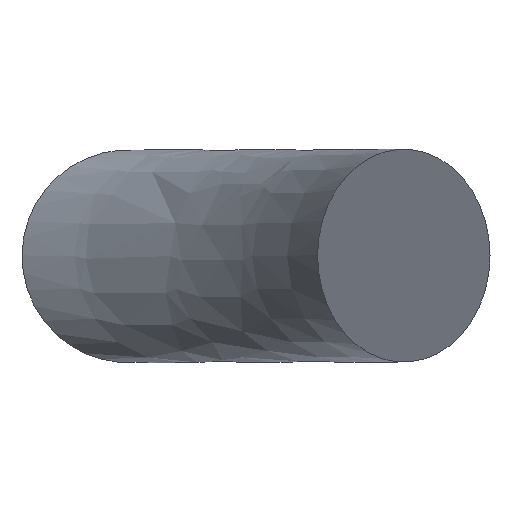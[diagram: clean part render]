
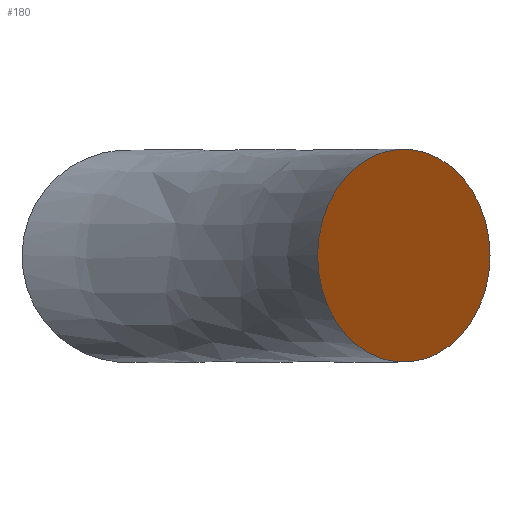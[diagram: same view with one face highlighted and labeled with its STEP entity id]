
A CAD part, top view. The second image highlights one B-rep face of the part: STEP entity #180.
In plain terms, the highlighted planar face has unit normal (-0.587, 0, 0.81).
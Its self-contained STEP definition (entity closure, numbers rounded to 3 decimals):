
#24 = VERTEX_POINT('',#25);
#25 = CARTESIAN_POINT('',(20.,0.,
    17.181));
#37 = ( BOUNDED_SURFACE() B_SPLINE_SURFACE(6,7,(
    (#38,#39,#40,#41,#42,#43,#44,#45)
    ,(#46,#47,#48,#49,#50,#51,#52,#53)
    ,(#54,#55,#56,#57,#58,#59,#60,#61)
    ,(#62,#63,#64,#65,#66,#67,#68,#69)
    ,(#70,#71,#72,#73,#74,#75,#76,#77)
    ,(#78,#79,#80,#81,#82,#83,#84,#85)
    ,(#86,#87,#88,#89,#90,#91,#92,#93
)),.UNSPECIFIED.,.T.,.F.,.F.) B_SPLINE_SURFACE_WITH_KNOTS((1,6,6,1),(8,8
    ),(-6.283,0.,6.283,12.566),(0.,
3.65),.UNSPECIFIED.) GEOMETRIC_REPRESENTATION_ITEM() 
RATIONAL_B_SPLINE_SURFACE((
    (1.669,1.669,1.669,1.669
      ,1.669,1.669,1.669,1.669)
    ,(1.037,1.037,1.037,1.037
      ,1.037,1.037,1.037,1.037)
    ,(1.038,1.038,1.038,1.038
      ,1.038,1.038,1.038,1.038)
    ,(0.854,0.854,0.854,0.854
      ,0.854,0.854,0.854,0.854)
    ,(1.038,1.038,1.038,1.038
      ,1.038,1.038,1.038,1.038)
    ,(1.037,1.037,1.037,1.037
      ,1.037,1.037,1.037,1.037)
    ,(1.669,1.669,1.669,1.669
      ,1.669,1.669,1.669,1.669
))) REPRESENTATION_ITEM('') SURFACE() );
#38 = CARTESIAN_POINT('',(-1.804,0.,
    -17.181));
#39 = CARTESIAN_POINT('',(2.808,0.,
    -13.392));
#40 = CARTESIAN_POINT('',(6.975,0.,
    -9.183));
#41 = CARTESIAN_POINT('',(10.66,0.,
    -4.563));
#42 = CARTESIAN_POINT('',(13.814,0.,
    0.44));
#43 = CARTESIAN_POINT('',(16.412,0.,
    5.761));
#44 = CARTESIAN_POINT('',(18.467,0.,
    11.351));
#45 = CARTESIAN_POINT('',(20.,0.,
    17.181));
#46 = CARTESIAN_POINT('',(-1.804,15.117,-17.181
    ));
#47 = CARTESIAN_POINT('',(2.808,15.117,-13.392
    ));
#48 = CARTESIAN_POINT('',(6.975,15.117,-9.183
    ));
#49 = CARTESIAN_POINT('',(10.66,15.117,
    -4.563));
#50 = CARTESIAN_POINT('',(13.814,15.117,0.44
    ));
#51 = CARTESIAN_POINT('',(16.412,15.117,5.761
    ));
#52 = CARTESIAN_POINT('',(18.467,15.117,
    11.351));
#53 = CARTESIAN_POINT('',(20.,15.117,
    17.181));
#54 = CARTESIAN_POINT('',(-20.496,17.288,
    -17.181));
#55 = CARTESIAN_POINT('',(-15.885,17.288,
    -14.992));
#56 = CARTESIAN_POINT('',(-11.557,17.288,
    -12.477));
#57 = CARTESIAN_POINT('',(-7.521,17.288,
    -9.594));
#58 = CARTESIAN_POINT('',(-3.802,17.288,
    -6.294));
#59 = CARTESIAN_POINT('',(-0.468,17.288,
    -2.55));
#60 = CARTESIAN_POINT('',(2.43,17.288,1.626)
  );
#61 = CARTESIAN_POINT('',(4.862,17.288,6.215)
  );
#62 = CARTESIAN_POINT('',(-35.914,0.,
    -17.181));
#63 = CARTESIAN_POINT('',(-31.302,0.,
    -16.312));
#64 = CARTESIAN_POINT('',(-26.843,0.,
    -15.193));
#65 = CARTESIAN_POINT('',(-22.516,0.,
    -13.743));
#66 = CARTESIAN_POINT('',(-18.331,0.,
    -11.849));
#67 = CARTESIAN_POINT('',(-14.391,0.,
    -9.405));
#68 = CARTESIAN_POINT('',(-10.798,0.,
    -6.395));
#69 = CARTESIAN_POINT('',(-7.623,0.,
    -2.83));
#70 = CARTESIAN_POINT('',(-20.496,-17.288,
    -17.181));
#71 = CARTESIAN_POINT('',(-15.885,-17.288,
    -14.992));
#72 = CARTESIAN_POINT('',(-11.557,-17.288,
    -12.477));
#73 = CARTESIAN_POINT('',(-7.521,-17.288,
    -9.594));
#74 = CARTESIAN_POINT('',(-3.802,-17.288,
    -6.294));
#75 = CARTESIAN_POINT('',(-0.468,-17.288,
    -2.55));
#76 = CARTESIAN_POINT('',(2.43,-17.288,1.626)
  );
#77 = CARTESIAN_POINT('',(4.862,-17.288,6.215)
  );
#78 = CARTESIAN_POINT('',(-1.804,-15.117,-17.181
    ));
#79 = CARTESIAN_POINT('',(2.808,-15.117,-13.392
    ));
#80 = CARTESIAN_POINT('',(6.975,-15.117,-9.183
    ));
#81 = CARTESIAN_POINT('',(10.66,-15.117,
    -4.563));
#82 = CARTESIAN_POINT('',(13.814,-15.117,0.44
    ));
#83 = CARTESIAN_POINT('',(16.412,-15.117,5.761
    ));
#84 = CARTESIAN_POINT('',(18.467,-15.117,
    11.351));
#85 = CARTESIAN_POINT('',(20.,-15.117,
    17.181));
#86 = CARTESIAN_POINT('',(-1.804,0.,
    -17.181));
#87 = CARTESIAN_POINT('',(2.808,0.,
    -13.392));
#88 = CARTESIAN_POINT('',(6.975,0.,
    -9.183));
#89 = CARTESIAN_POINT('',(10.66,0.,
    -4.563));
#90 = CARTESIAN_POINT('',(13.814,0.,
    0.44));
#91 = CARTESIAN_POINT('',(16.412,0.,
    5.761));
#92 = CARTESIAN_POINT('',(18.467,0.,
    11.351));
#93 = CARTESIAN_POINT('',(20.,0.,
    17.181));
#108 = EDGE_CURVE('',#24,#24,#109,.T.);
#109 = SURFACE_CURVE('',#110,(#118,#125),.PCURVE_S1.);
#110 = ( BOUNDED_CURVE() B_SPLINE_CURVE(6,(#111,#112,#113,#114,#115,#116
,#117),.UNSPECIFIED.,.T.,.F.) B_SPLINE_CURVE_WITH_KNOTS((1,6,6,1),(
    -6.283,0.,6.283,12.566),.UNSPECIFIED.) 
CURVE() GEOMETRIC_REPRESENTATION_ITEM() RATIONAL_B_SPLINE_CURVE((
    1.669,1.037,1.038,0.854,
1.038,1.037,1.669)) REPRESENTATION_ITEM('') );
#111 = CARTESIAN_POINT('',(20.,0.,
    17.181));
#112 = CARTESIAN_POINT('',(20.,15.117,
    17.181));
#113 = CARTESIAN_POINT('',(4.862,17.288,6.215)
  );
#114 = CARTESIAN_POINT('',(-7.623,0.,
    -2.83));
#115 = CARTESIAN_POINT('',(4.862,-17.288,6.215)
  );
#116 = CARTESIAN_POINT('',(20.,-15.117,
    17.181));
#117 = CARTESIAN_POINT('',(20.,0.,
    17.181));
#118 = PCURVE('',#37,#119);
#119 = DEFINITIONAL_REPRESENTATION('',(#120),#124);
#120 = LINE('',#121,#122);
#121 = CARTESIAN_POINT('',(0.,3.65));
#122 = VECTOR('',#123,1.);
#123 = DIRECTION('',(1.,0.));
#124 = ( GEOMETRIC_REPRESENTATION_CONTEXT(2) 
PARAMETRIC_REPRESENTATION_CONTEXT() REPRESENTATION_CONTEXT('2D SPACE',''
  ) );
#125 = PCURVE('',#126,#131);
#126 = PLANE('',#127);
#127 = AXIS2_PLACEMENT_3D('',#128,#129,#130);
#128 = CARTESIAN_POINT('',(12.633,0.,
    11.844));
#129 = DIRECTION('',(-0.587,0.,0.81));
#130 = DIRECTION('',(0.81,0.,0.587));
#131 = DEFINITIONAL_REPRESENTATION('',(#132),#140);
#132 = ( BOUNDED_CURVE() B_SPLINE_CURVE(6,(#133,#134,#135,#136,#137,#138
,#139),.UNSPECIFIED.,.T.,.F.) B_SPLINE_CURVE_WITH_KNOTS((1,6,6,1),(
    -6.283,0.,6.283,12.566),.UNSPECIFIED.) 
CURVE() GEOMETRIC_REPRESENTATION_ITEM() RATIONAL_B_SPLINE_CURVE((
    1.669,1.037,1.038,0.854,
1.038,1.037,1.669)) REPRESENTATION_ITEM('') );
#133 = CARTESIAN_POINT('',(9.097,0.));
#134 = CARTESIAN_POINT('',(9.097,15.117));
#135 = CARTESIAN_POINT('',(-9.596,17.288));
#136 = CARTESIAN_POINT('',(-25.013,0.));
#137 = CARTESIAN_POINT('',(-9.596,-17.288));
#138 = CARTESIAN_POINT('',(9.097,-15.117));
#139 = CARTESIAN_POINT('',(9.097,0.));
#140 = ( GEOMETRIC_REPRESENTATION_CONTEXT(2) 
PARAMETRIC_REPRESENTATION_CONTEXT() REPRESENTATION_CONTEXT('2D SPACE',''
  ) );
#180 = ADVANCED_FACE('',(#181),#126,.T.);
#181 = FACE_BOUND('',#182,.T.);
#182 = EDGE_LOOP('',(#183));
#183 = ORIENTED_EDGE('',*,*,#108,.T.);
